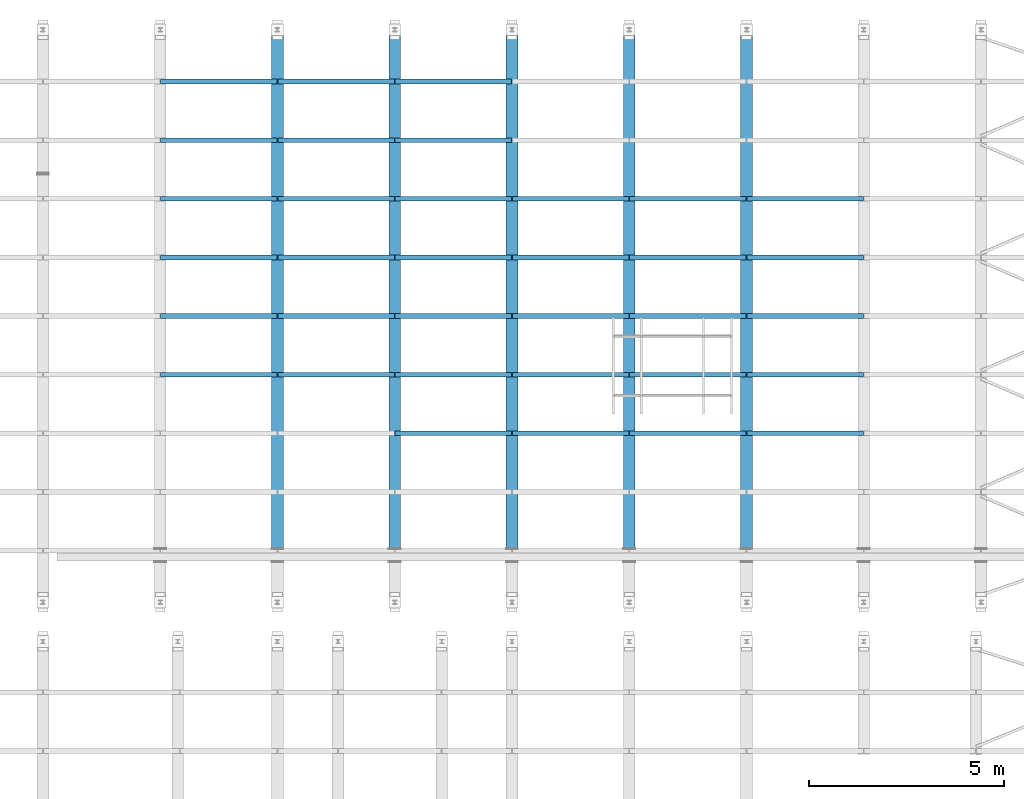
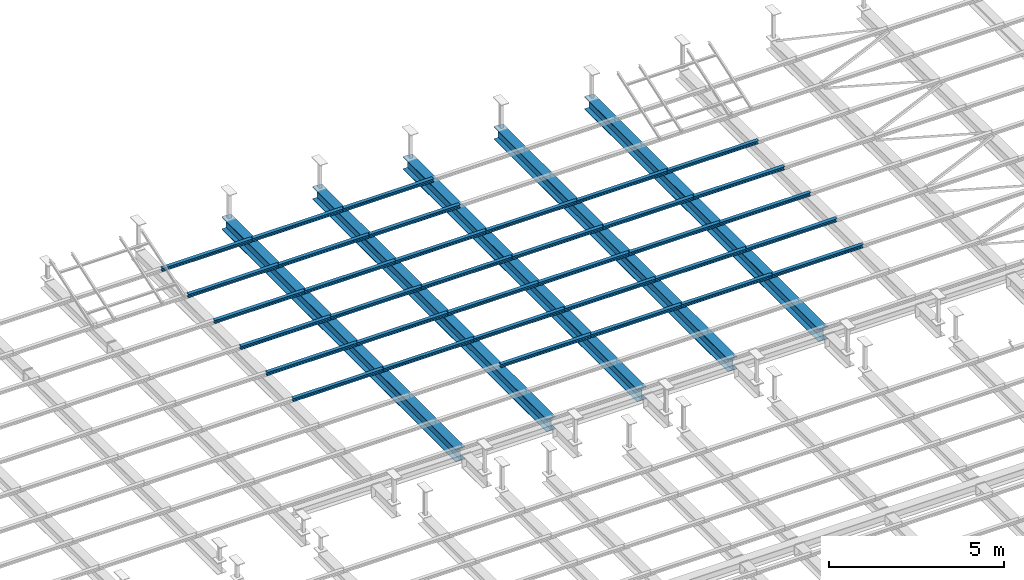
# One storey, part 79 of 139: 39 beams.
"""IFC2X3 building model written with IfcOpenShell, lengths in metres."""

import ifcopenshell
import ifcopenshell.guid

model = None  # the IFC model being written
_history = None  # IfcOwnerHistory: only IFC2X3 demands one
_inside = {}  # id of a spatial element -> (the spatial element, [elements in it])
_under = {}  # id of a project, library or spatial element -> (it, [spatial elements below it])
_declared = {}  # id of a project -> (the project, [libraries it declares])
_typed = {}  # id of a type object -> (the type object, [elements of that type])
_made_of = {}  # id of a material, layer set ... -> (it, [elements and type objects made of it])


def new_model(schema):
    """Start an empty IFC model of exactly this schema.

    Asked for "IFC4X3", IfcOpenShell would pick the latest addendum, in which some entities
    have other attributes; the version numbers below select the first issue.
    IFC2X3 requires an IfcOwnerHistory on every rooted entity: one is made here for all.
    """
    global model, _history
    if schema == "IFC4X3":
        model = ifcopenshell.file(schema_version=(4, 3, 0, 0))
    else:
        model = ifcopenshell.file(schema=schema)
    _inside.clear()
    _under.clear()
    _declared.clear()
    _typed.clear()
    _made_of.clear()
    _history = None
    if model.schema == "IFC2X3":
        org = make("IfcOrganization", Name="unknown")
        user = make(
            "IfcPersonAndOrganization",
            ThePerson=make("IfcPerson", FamilyName="unknown"),
            TheOrganization=org,
        )
        app = make(
            "IfcApplication",
            ApplicationDeveloper=org,
            Version="unknown",
            ApplicationFullName="unknown",
            ApplicationIdentifier="unknown",
        )
        _history = make(
            "IfcOwnerHistory",
            OwningUser=user,
            OwningApplication=app,
            ChangeAction="ADDED",
            CreationDate=0,
        )
    return model


def make(cls, **values):
    """One entity of the class cls with the attributes given. An attribute that is None is left unset."""
    return model.create_entity(
        cls, **{name: value for name, value in values.items() if value is not None}
    )


def entity(cls, *values):
    """Any entity or typed value of the class cls, its attributes in the order of the schema. None: left unset."""
    e = model.create_entity(cls)
    for i, value in enumerate(values):
        if value is not None:
            e[i] = value
    return e


def rooted(cls, **values):
    """An entity with a GlobalId (a new one), such as an element, a storey or a relation."""
    return make(cls, GlobalId=ifcopenshell.guid.new(), OwnerHistory=_history, **values)


def si_unit(unit_type, name, prefix=None):
    """IfcSIUnit, for example si_unit("LENGTHUNIT", "METRE", prefix="MILLI")."""
    return make("IfcSIUnit", UnitType=unit_type, Prefix=prefix, Name=name)


def converted_unit(unit_type, name, factor, base, dimensions=None, offset=None):
    """IfcConversionBasedUnit, such as the inch: factor (a typed value) times the base unit."""
    return make(
        "IfcConversionBasedUnit"
        if offset is None
        else "IfcConversionBasedUnitWithOffset",
        ConversionOffset=offset,
        Dimensions=None
        if dimensions is None
        else entity("IfcDimensionalExponents", *dimensions),
        UnitType=unit_type,
        Name=name,
        ConversionFactor=make(
            "IfcMeasureWithUnit", ValueComponent=factor, UnitComponent=base
        ),
    )


def derived_unit(unit_type, elements):
    """IfcDerivedUnit: a product of units, each with its exponent."""
    return make(
        "IfcDerivedUnit",
        Elements=[
            make("IfcDerivedUnitElement", Unit=unit, Exponent=power)
            for unit, power in elements
        ],
        UnitType=unit_type,
    )


def assignment(units):
    """IfcUnitAssignment: the units of a project."""
    return None if units is None else make("IfcUnitAssignment", Units=units)


def point(xyz):
    """IfcCartesianPoint."""
    return None if xyz is None else make("IfcCartesianPoint", Coordinates=xyz)


def direction(xyz):
    """IfcDirection."""
    return None if xyz is None else make("IfcDirection", DirectionRatios=xyz)


def frame(location, z_axis=None, x_axis=None):
    """IfcAxis2Placement3D, a coordinate frame: its origin and axes. An axis left out is left unset."""
    return make(
        "IfcAxis2Placement3D",
        Location=point(location),
        Axis=direction(z_axis),
        RefDirection=direction(x_axis),
    )


def origin():
    """The frame at (0, 0, 0) with its axes left unset."""
    return frame((0.0, 0.0, 0.0))


def place(relative_to, where):
    """IfcLocalPlacement: puts the frame where relative to a parent placement (None: the world)."""
    return make(
        "IfcLocalPlacement", PlacementRelTo=relative_to, RelativePlacement=where
    )


def context(
    kind, dimensions, precision=None, world=None, true_north=None, identifier=None
):
    """IfcGeometricRepresentationContext, for example the 3D "Model" context."""
    return make(
        "IfcGeometricRepresentationContext",
        ContextIdentifier=identifier,
        ContextType=kind,
        CoordinateSpaceDimension=dimensions,
        Precision=precision,
        WorldCoordinateSystem=world,
        TrueNorth=true_north,
    )


def subcontext(parent, identifier, kind, view, scale=None):
    """IfcGeometricRepresentationSubContext, for example "Body" below "Model"."""
    return make(
        "IfcGeometricRepresentationSubContext",
        ContextIdentifier=identifier,
        ContextType=kind,
        ParentContext=parent,
        TargetScale=scale,
        TargetView=view,
    )


def project(units=None, contexts=None):
    """IfcProject with its units and contexts."""
    return rooted(
        "IfcProject",
        Name="project",
        RepresentationContexts=contexts,
        UnitsInContext=assignment(units),
    )


def spatial(cls, under=None, at=None, **own):
    """A site, building, storey or space (cls), placed at a placement, below another one or the project."""
    s = rooted(cls, ObjectPlacement=at, **own)
    if under is not None:
        _under.setdefault(under.id(), (under, []))[1].append(s)
    return s


def polyline(points):
    """IfcPolyline through the points."""
    return make("IfcPolyline", Points=[point(p) for p in points])


def outline(outer, holes=None, kind="AREA"):
    """IfcArbitraryClosedProfileDef: a profile drawn as a closed curve; with holes, ...WithVoids."""
    if holes is None:
        return make("IfcArbitraryClosedProfileDef", ProfileType=kind, OuterCurve=outer)
    return make(
        "IfcArbitraryProfileDefWithVoids",
        ProfileType=kind,
        OuterCurve=outer,
        InnerCurves=holes,
    )


def extrude(swept, where, along, depth):
    """IfcExtrudedAreaSolid: the profile swept, set in the frame where, extruded along a direction by depth."""
    return make(
        "IfcExtrudedAreaSolid",
        SweptArea=swept,
        Position=where,
        ExtrudedDirection=direction(along),
        Depth=depth,
    )


def shape(context_of_items, identifier, shape_type, items):
    """IfcShapeRepresentation: the items that make up one representation, for example the "Body"."""
    return make(
        "IfcShapeRepresentation",
        ContextOfItems=context_of_items,
        RepresentationIdentifier=identifier,
        RepresentationType=shape_type,
        Items=items,
    )


def material(Name=None, Category=None):
    """IfcMaterial."""
    return make("IfcMaterial", Name=Name, Category=Category)


def made_of(thing, what):
    """Note that an element or type object is made of a material, layer set ...; save() writes the relation."""
    if what is not None:
        _made_of.setdefault(what.id(), (what, []))[1].append(thing)
    return thing


def element(
    cls,
    number,
    at=None,
    inside=None,
    cuts=None,
    type_object=None,
    material=None,
    context=None,
    identifier="Body",
    shape_type=None,
    held_by="IfcProductDefinitionShape",
    body=None,
    shapes=None,
    **own,
):
    """One element of the class cls, such as IfcWall. Its Tag is "e" and its number.

    at: its placement. inside: the storey or other place that contains it. cuts: it is an
    opening in that element (IfcRelVoidsElement). A single representation is given by context,
    identifier, shape_type and body (its items); several are given by shapes. held_by: the class
    of the entity that holds the representations. save() writes the other relations.
    """
    e = rooted(cls, Tag="e%d" % number, ObjectPlacement=at, **own)
    if body is not None:
        shapes = [shape(context, identifier, shape_type, body)]
    if shapes is not None:
        e.Representation = make(held_by, Representations=shapes)
    if inside is not None:
        _inside.setdefault(inside.id(), (inside, []))[1].append(e)
    if cuts is not None:
        rooted(
            "IfcRelVoidsElement", RelatingBuildingElement=cuts, RelatedOpeningElement=e
        )
    if type_object is not None:
        _typed.setdefault(type_object.id(), (type_object, []))[1].append(e)
    return made_of(e, material)


def aggregate(whole, parts):
    """IfcRelAggregates: a whole, such as a stair, and the parts it consists of."""
    return rooted("IfcRelAggregates", RelatingObject=whole, RelatedObjects=parts)


def save(model, path):
    """Write the relations noted so far, then the file.

    IfcRelAggregates (storeys below a building ...), IfcRelContainedInSpatialStructure (elements
    in a storey), IfcRelDefinesByType, IfcRelAssociatesMaterial and IfcRelDeclares: one each for
    every whole, place, type object, material and project.
    """
    for whole, parts in _under.values():
        aggregate(whole, parts)
    for where, things in _inside.values():
        rooted(
            "IfcRelContainedInSpatialStructure",
            RelatedElements=things,
            RelatingStructure=where,
        )
    for kind, things in _typed.values():
        rooted("IfcRelDefinesByType", RelatedObjects=things, RelatingType=kind)
    for what, things in _made_of.values():
        rooted("IfcRelAssociatesMaterial", RelatedObjects=things, RelatingMaterial=what)
    for by, libraries in _declared.values():
        rooted("IfcRelDeclares", RelatingContext=by, RelatedDefinitions=libraries)
    model.write(path)


model = new_model("IFC2X3")

# Units and contexts
model_context = context("Model", 3, precision=1e-05, world=origin())
body_context = subcontext(model_context, "Body", "Model", "MODEL_VIEW")
ifc_project = project(units=[si_unit("LENGTHUNIT", "METRE"), si_unit("AREAUNIT", "SQUARE_METRE"), si_unit("VOLUMEUNIT", "CUBIC_METRE"), si_unit("MASSUNIT", "GRAM", prefix="KILO"), converted_unit("PLANEANGLEUNIT", "DEGREE", entity("IfcPlaneAngleMeasure", 0.0174532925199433), si_unit("PLANEANGLEUNIT", "RADIAN"), dimensions=[0, 0, 0, 0, 0, 0, 0]), derived_unit("THERMALTRANSMITTANCEUNIT", [(si_unit("POWERUNIT", "WATT"), 1), (si_unit("THERMODYNAMICTEMPERATUREUNIT", "KELVIN"), -1), (si_unit("LENGTHUNIT", "METRE"), -2)]), derived_unit("VOLUMETRICFLOWRATEUNIT", [(si_unit("LENGTHUNIT", "METRE"), 3), (converted_unit("TIMEUNIT", "hour", entity("IfcTimeMeasure", 3600.0), si_unit("TIMEUNIT", "SECOND"), dimensions=[0, 0, 1, 0, 0, 0, 0]), -1), (si_unit("LENGTHUNIT", "METRE"), -1)])], contexts=[model_context])

# Site, building, storey
site_placement = place(None, origin())
site = spatial("IfcSite", under=ifc_project, at=site_placement, Name="TWP_Speiseverteilzentrum SBW VZ II", CompositionType="ELEMENT")
building_placement = place(site_placement, origin())
building = spatial("IfcBuilding", under=site, at=building_placement, Name="Speiseverteilzentrum SBW VZ II", CompositionType="ELEMENT")
storey_placement = place(building_placement, frame((0.0, 0.0, 7.1307)))
storey = spatial("IfcBuildingStorey", under=building, at=storey_placement, Name="Wartung_FFB", CompositionType="ELEMENT", Elevation=7.1307)

# Beams
ifc_material_1 = material(Name="S235")
beam_1_placement = place(storey_placement, frame((28.0500000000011, 72.2845015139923, -0.41), z_axis=(0.0, 0.0, 1.0), x_axis=(1.0, -2.44929359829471e-16, 0.0)))
element("IfcBeam", 1, at=beam_1_placement, inside=storey, material=ifc_material_1, Name="Stahlträger", context=body_context, shape_type="SweptSolid", body=[
    extrude(outline(polyline([(-0.15, 0.22), (-0.15, 0.199), (-0.00574999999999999, 0.199), (-0.00575000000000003, -0.199), (-0.15, -0.199), (-0.15, -0.22), (0.15, -0.22), (0.15, -0.199), (0.00574999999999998, -0.199), (0.00575000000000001, 0.199), (0.15, 0.199), (0.15, 0.22), (-0.15, 0.22)])), frame((0.0, 0.0, 0.0), z_axis=(0.0, 1.0, 0.0), x_axis=(-1.0, 0.0, 0.0)), (0.0, 0.0, 1.0), 13.4154984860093),
])
ifc_material_2 = material(Name="S235")
beam_2_placement = place(storey_placement, frame((31.0500000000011, 72.2845015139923, -0.41), z_axis=(0.0, 0.0, 1.0), x_axis=(1.0, -2.44929359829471e-16, 0.0)))
element("IfcBeam", 2, at=beam_2_placement, inside=storey, material=ifc_material_2, Name="Stahlträger", context=body_context, shape_type="SweptSolid", body=[
    extrude(outline(polyline([(-0.15, 0.22), (-0.15, 0.199), (-0.00574999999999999, 0.199), (-0.00575000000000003, -0.199), (-0.15, -0.199), (-0.15, -0.22), (0.15, -0.22), (0.15, -0.199), (0.00574999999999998, -0.199), (0.00575000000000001, 0.199), (0.15, 0.199), (0.15, 0.22), (-0.15, 0.22)])), frame((0.0, 0.0, 0.0), z_axis=(0.0, 1.0, 0.0), x_axis=(-1.0, 0.0, 0.0)), (0.0, 0.0, 1.0), 13.4154984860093),
])
ifc_material_3 = material(Name="S235")
beam_3_placement = place(storey_placement, frame((34.0500000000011, 72.2845015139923, -0.41), z_axis=(0.0, 0.0, 1.0), x_axis=(1.0, -2.44929359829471e-16, 0.0)))
element("IfcBeam", 3, at=beam_3_placement, inside=storey, material=ifc_material_3, Name="Stahlträger", context=body_context, shape_type="SweptSolid", body=[
    extrude(outline(polyline([(-0.15, 0.22), (-0.15, 0.199), (-0.00574999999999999, 0.199), (-0.00575000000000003, -0.199), (-0.15, -0.199), (-0.15, -0.22), (0.15, -0.22), (0.15, -0.199), (0.00574999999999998, -0.199), (0.00575000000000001, 0.199), (0.15, 0.199), (0.15, 0.22), (-0.15, 0.22)])), frame((0.0, 0.0, 0.0), z_axis=(0.0, 1.0, 0.0), x_axis=(-1.0, 0.0, 0.0)), (0.0, 0.0, 1.0), 13.4154984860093),
])
ifc_material_4 = material(Name="S235")
beam_4_placement = place(storey_placement, frame((37.0500000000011, 72.2845015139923, -0.41), z_axis=(0.0, 0.0, 1.0), x_axis=(1.0, -2.44929359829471e-16, 0.0)))
element("IfcBeam", 4, at=beam_4_placement, inside=storey, material=ifc_material_4, Name="Stahlträger", context=body_context, shape_type="SweptSolid", body=[
    extrude(outline(polyline([(-0.15, 0.22), (-0.15, 0.199), (-0.00574999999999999, 0.199), (-0.00575000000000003, -0.199), (-0.15, -0.199), (-0.15, -0.22), (0.15, -0.22), (0.15, -0.199), (0.00574999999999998, -0.199), (0.00575000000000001, 0.199), (0.15, 0.199), (0.15, 0.22), (-0.15, 0.22)])), frame((0.0, 0.0, 0.0), z_axis=(0.0, 1.0, 0.0), x_axis=(-1.0, 0.0, 0.0)), (0.0, 0.0, 1.0), 13.4154984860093),
])
ifc_material_5 = material(Name="S235")
beam_5_placement = place(storey_placement, frame((40.0500000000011, 72.2845015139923, -0.41), z_axis=(0.0, 0.0, 1.0), x_axis=(1.0, -2.44929359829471e-16, 0.0)))
element("IfcBeam", 5, at=beam_5_placement, inside=storey, material=ifc_material_5, Name="Stahlträger", context=body_context, shape_type="SweptSolid", body=[
    extrude(outline(polyline([(-0.15, 0.22), (-0.15, 0.199), (-0.00574999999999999, 0.199), (-0.00575000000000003, -0.199), (-0.15, -0.199), (-0.15, -0.22), (0.15, -0.22), (0.15, -0.199), (0.00574999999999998, -0.199), (0.00575000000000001, 0.199), (0.15, 0.199), (0.15, 0.22), (-0.15, 0.22)])), frame((0.0, 0.0, 0.0), z_axis=(0.0, 1.0, 0.0), x_axis=(-1.0, 0.0, 0.0)), (0.0, 0.0, 1.0), 13.4154984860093),
])
ifc_material_6 = material(Name="S235")
beam_6_placement = place(storey_placement, frame((25.0600000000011, 84.2261263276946, -0.133), z_axis=(0.0, 0.0, 1.0), x_axis=(0.0, -1.0, 0.0)))
element("IfcBeam", 6, at=beam_6_placement, inside=storey, material=ifc_material_6, Name="Nebenträger", context=body_context, shape_type="SweptSolid", body=[
    extrude(outline(polyline([(-0.06, 0.0570000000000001), (-0.06, 0.0490000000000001), (-0.00249999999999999, 0.0490000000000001), (-0.0025, -0.0489999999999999), (-0.06, -0.0489999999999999), (-0.06, -0.0569999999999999), (0.06, -0.0569999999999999), (0.06, -0.0489999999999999), (0.0025, -0.0489999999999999), (0.00250000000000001, 0.0490000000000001), (0.06, 0.0490000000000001), (0.06, 0.0570000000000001), (-0.06, 0.0570000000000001)])), frame((0.0, 0.0, 0.0), z_axis=(0.0, 1.0, 0.0), x_axis=(-1.0, 0.0, 0.0)), (0.0, 0.0, 1.0), 2.98),
])
ifc_material_7 = material(Name="S235")
beam_7_placement = place(storey_placement, frame((28.0600000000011, 84.2261263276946, -0.133), z_axis=(0.0, 0.0, 1.0), x_axis=(0.0, -1.0, 0.0)))
element("IfcBeam", 7, at=beam_7_placement, inside=storey, material=ifc_material_7, Name="Nebenträger", context=body_context, shape_type="SweptSolid", body=[
    extrude(outline(polyline([(-0.06, 0.0570000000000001), (-0.06, 0.0490000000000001), (-0.00249999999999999, 0.0490000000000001), (-0.0025, -0.0489999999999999), (-0.06, -0.0489999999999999), (-0.06, -0.0569999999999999), (0.06, -0.0569999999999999), (0.06, -0.0489999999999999), (0.0025, -0.0489999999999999), (0.00250000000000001, 0.0490000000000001), (0.06, 0.0490000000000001), (0.06, 0.0570000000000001), (-0.06, 0.0570000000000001)])), frame((0.0, 0.0, 0.0), z_axis=(0.0, 1.0, 0.0), x_axis=(-1.0, 0.0, 0.0)), (0.0, 0.0, 1.0), 2.98),
])
ifc_material_8 = material(Name="S235")
beam_8_placement = place(storey_placement, frame((31.0600000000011, 84.2261263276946, -0.133), z_axis=(0.0, 0.0, 1.0), x_axis=(0.0, -1.0, 0.0)))
element("IfcBeam", 8, at=beam_8_placement, inside=storey, material=ifc_material_8, Name="Nebenträger", context=body_context, shape_type="SweptSolid", body=[
    extrude(outline(polyline([(-0.06, 0.0570000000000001), (-0.06, 0.0490000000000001), (-0.00249999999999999, 0.0490000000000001), (-0.0025, -0.0489999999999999), (-0.06, -0.0489999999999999), (-0.06, -0.0569999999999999), (0.06, -0.0569999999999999), (0.06, -0.0489999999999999), (0.0025, -0.0489999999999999), (0.00250000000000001, 0.0490000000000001), (0.06, 0.0490000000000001), (0.06, 0.0570000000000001), (-0.06, 0.0570000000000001)])), frame((0.0, 0.0, 0.0), z_axis=(0.0, 1.0, 0.0), x_axis=(-1.0, 0.0, 0.0)), (0.0, 0.0, 1.0), 2.98),
])
ifc_material_9 = material(Name="S235")
beam_9_placement = place(storey_placement, frame((25.0600000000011, 82.7261263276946, -0.133), z_axis=(0.0, 0.0, 1.0), x_axis=(0.0, -1.0, 0.0)))
element("IfcBeam", 9, at=beam_9_placement, inside=storey, material=ifc_material_9, Name="Nebenträger", context=body_context, shape_type="SweptSolid", body=[
    extrude(outline(polyline([(-0.06, 0.0570000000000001), (-0.06, 0.0490000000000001), (-0.00249999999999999, 0.0490000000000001), (-0.0025, -0.0489999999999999), (-0.06, -0.0489999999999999), (-0.06, -0.0569999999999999), (0.06, -0.0569999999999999), (0.06, -0.0489999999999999), (0.0025, -0.0489999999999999), (0.00250000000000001, 0.0490000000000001), (0.06, 0.0490000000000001), (0.06, 0.0570000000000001), (-0.06, 0.0570000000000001)])), frame((0.0, 0.0, 0.0), z_axis=(0.0, 1.0, 0.0), x_axis=(-1.0, 0.0, 0.0)), (0.0, 0.0, 1.0), 2.98),
])
ifc_material_10 = material(Name="S235")
beam_10_placement = place(storey_placement, frame((28.0600000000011, 82.7261263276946, -0.133), z_axis=(0.0, 0.0, 1.0), x_axis=(0.0, -1.0, 0.0)))
element("IfcBeam", 10, at=beam_10_placement, inside=storey, material=ifc_material_10, Name="Nebenträger", context=body_context, shape_type="SweptSolid", body=[
    extrude(outline(polyline([(-0.06, 0.0570000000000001), (-0.06, 0.0490000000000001), (-0.00249999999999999, 0.0490000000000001), (-0.0025, -0.0489999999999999), (-0.06, -0.0489999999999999), (-0.06, -0.0569999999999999), (0.06, -0.0569999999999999), (0.06, -0.0489999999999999), (0.0025, -0.0489999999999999), (0.00250000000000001, 0.0490000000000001), (0.06, 0.0490000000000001), (0.06, 0.0570000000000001), (-0.06, 0.0570000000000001)])), frame((0.0, 0.0, 0.0), z_axis=(0.0, 1.0, 0.0), x_axis=(-1.0, 0.0, 0.0)), (0.0, 0.0, 1.0), 2.98),
])
ifc_material_11 = material(Name="S235")
beam_11_placement = place(storey_placement, frame((31.0600000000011, 82.7261263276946, -0.133), z_axis=(0.0, 0.0, 1.0), x_axis=(0.0, -1.0, 0.0)))
element("IfcBeam", 11, at=beam_11_placement, inside=storey, material=ifc_material_11, Name="Nebenträger", context=body_context, shape_type="SweptSolid", body=[
    extrude(outline(polyline([(-0.06, 0.0570000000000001), (-0.06, 0.0490000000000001), (-0.00249999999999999, 0.0490000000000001), (-0.0025, -0.0489999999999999), (-0.06, -0.0489999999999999), (-0.06, -0.0569999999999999), (0.06, -0.0569999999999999), (0.06, -0.0489999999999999), (0.0025, -0.0489999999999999), (0.00250000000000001, 0.0490000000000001), (0.06, 0.0490000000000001), (0.06, 0.0570000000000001), (-0.06, 0.0570000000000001)])), frame((0.0, 0.0, 0.0), z_axis=(0.0, 1.0, 0.0), x_axis=(-1.0, 0.0, 0.0)), (0.0, 0.0, 1.0), 2.98),
])
ifc_material_12 = material(Name="S235")
beam_12_placement = place(storey_placement, frame((25.0600000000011, 81.2261263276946, -0.133), z_axis=(0.0, 0.0, 1.0), x_axis=(0.0, -1.0, 0.0)))
element("IfcBeam", 12, at=beam_12_placement, inside=storey, material=ifc_material_12, Name="Nebenträger", context=body_context, shape_type="SweptSolid", body=[
    extrude(outline(polyline([(-0.06, 0.0570000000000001), (-0.06, 0.0490000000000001), (-0.00249999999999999, 0.0490000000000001), (-0.0025, -0.0489999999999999), (-0.06, -0.0489999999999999), (-0.06, -0.0569999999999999), (0.06, -0.0569999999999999), (0.06, -0.0489999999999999), (0.0025, -0.0489999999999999), (0.00250000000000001, 0.0490000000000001), (0.06, 0.0490000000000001), (0.06, 0.0570000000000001), (-0.06, 0.0570000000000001)])), frame((0.0, 0.0, 0.0), z_axis=(0.0, 1.0, 0.0), x_axis=(-1.0, 0.0, 0.0)), (0.0, 0.0, 1.0), 2.98),
])
ifc_material_13 = material(Name="S235")
beam_13_placement = place(storey_placement, frame((28.0600000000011, 81.2261263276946, -0.133), z_axis=(0.0, 0.0, 1.0), x_axis=(0.0, -1.0, 0.0)))
element("IfcBeam", 13, at=beam_13_placement, inside=storey, material=ifc_material_13, Name="Nebenträger", context=body_context, shape_type="SweptSolid", body=[
    extrude(outline(polyline([(-0.06, 0.0570000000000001), (-0.06, 0.0490000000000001), (-0.00249999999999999, 0.0490000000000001), (-0.0025, -0.0489999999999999), (-0.06, -0.0489999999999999), (-0.06, -0.0569999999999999), (0.06, -0.0569999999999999), (0.06, -0.0489999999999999), (0.0025, -0.0489999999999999), (0.00250000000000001, 0.0490000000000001), (0.06, 0.0490000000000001), (0.06, 0.0570000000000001), (-0.06, 0.0570000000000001)])), frame((0.0, 0.0, 0.0), z_axis=(0.0, 1.0, 0.0), x_axis=(-1.0, 0.0, 0.0)), (0.0, 0.0, 1.0), 2.98),
])
ifc_material_14 = material(Name="S235")
beam_14_placement = place(storey_placement, frame((31.0600000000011, 81.2261263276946, -0.133), z_axis=(0.0, 0.0, 1.0), x_axis=(0.0, -1.0, 0.0)))
element("IfcBeam", 14, at=beam_14_placement, inside=storey, material=ifc_material_14, Name="Nebenträger", context=body_context, shape_type="SweptSolid", body=[
    extrude(outline(polyline([(-0.06, 0.0570000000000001), (-0.06, 0.0490000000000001), (-0.00249999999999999, 0.0490000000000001), (-0.0025, -0.0489999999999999), (-0.06, -0.0489999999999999), (-0.06, -0.0569999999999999), (0.06, -0.0569999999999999), (0.06, -0.0489999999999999), (0.0025, -0.0489999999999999), (0.00250000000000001, 0.0490000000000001), (0.06, 0.0490000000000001), (0.06, 0.0570000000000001), (-0.06, 0.0570000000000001)])), frame((0.0, 0.0, 0.0), z_axis=(0.0, 1.0, 0.0), x_axis=(-1.0, 0.0, 0.0)), (0.0, 0.0, 1.0), 2.98),
])
ifc_material_15 = material(Name="S235")
beam_15_placement = place(storey_placement, frame((34.0600000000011, 81.2261263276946, -0.133), z_axis=(0.0, 0.0, 1.0), x_axis=(0.0, -1.0, 0.0)))
element("IfcBeam", 15, at=beam_15_placement, inside=storey, material=ifc_material_15, Name="Nebenträger", context=body_context, shape_type="SweptSolid", body=[
    extrude(outline(polyline([(-0.06, 0.0570000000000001), (-0.06, 0.0490000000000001), (-0.00249999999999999, 0.0490000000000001), (-0.0025, -0.0489999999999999), (-0.06, -0.0489999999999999), (-0.06, -0.0569999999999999), (0.06, -0.0569999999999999), (0.06, -0.0489999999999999), (0.0025, -0.0489999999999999), (0.00250000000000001, 0.0490000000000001), (0.06, 0.0490000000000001), (0.06, 0.0570000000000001), (-0.06, 0.0570000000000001)])), frame((0.0, 0.0, 0.0), z_axis=(0.0, 1.0, 0.0), x_axis=(-1.0, 0.0, 0.0)), (0.0, 0.0, 1.0), 2.98),
])
ifc_material_16 = material(Name="S235")
beam_16_placement = place(storey_placement, frame((37.0600000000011, 81.2261263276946, -0.133), z_axis=(0.0, 0.0, 1.0), x_axis=(0.0, -1.0, 0.0)))
element("IfcBeam", 16, at=beam_16_placement, inside=storey, material=ifc_material_16, Name="Nebenträger", context=body_context, shape_type="SweptSolid", body=[
    extrude(outline(polyline([(-0.06, 0.0570000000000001), (-0.06, 0.0490000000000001), (-0.00249999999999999, 0.0490000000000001), (-0.0025, -0.0489999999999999), (-0.06, -0.0489999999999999), (-0.06, -0.0569999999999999), (0.06, -0.0569999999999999), (0.06, -0.0489999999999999), (0.0025, -0.0489999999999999), (0.00250000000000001, 0.0490000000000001), (0.06, 0.0490000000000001), (0.06, 0.0570000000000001), (-0.06, 0.0570000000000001)])), frame((0.0, 0.0, 0.0), z_axis=(0.0, 1.0, 0.0), x_axis=(-1.0, 0.0, 0.0)), (0.0, 0.0, 1.0), 2.98),
])
ifc_material_17 = material(Name="S235")
beam_17_placement = place(storey_placement, frame((40.0600000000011, 81.2261263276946, -0.133), z_axis=(0.0, 0.0, 1.0), x_axis=(0.0, -1.0, 0.0)))
element("IfcBeam", 17, at=beam_17_placement, inside=storey, material=ifc_material_17, Name="Nebenträger", context=body_context, shape_type="SweptSolid", body=[
    extrude(outline(polyline([(-0.06, 0.0570000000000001), (-0.06, 0.0490000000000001), (-0.00249999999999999, 0.0490000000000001), (-0.0025, -0.0489999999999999), (-0.06, -0.0489999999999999), (-0.06, -0.0569999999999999), (0.06, -0.0569999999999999), (0.06, -0.0489999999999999), (0.0025, -0.0489999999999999), (0.00250000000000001, 0.0490000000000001), (0.06, 0.0490000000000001), (0.06, 0.0570000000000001), (-0.06, 0.0570000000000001)])), frame((0.0, 0.0, 0.0), z_axis=(0.0, 1.0, 0.0), x_axis=(-1.0, 0.0, 0.0)), (0.0, 0.0, 1.0), 2.98),
])
ifc_material_18 = material(Name="S235")
beam_18_placement = place(storey_placement, frame((25.0600000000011, 79.7261263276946, -0.133), z_axis=(0.0, 0.0, 1.0), x_axis=(0.0, -1.0, 0.0)))
element("IfcBeam", 18, at=beam_18_placement, inside=storey, material=ifc_material_18, Name="Nebenträger", context=body_context, shape_type="SweptSolid", body=[
    extrude(outline(polyline([(-0.06, 0.0570000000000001), (-0.06, 0.0490000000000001), (-0.00249999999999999, 0.0490000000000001), (-0.0025, -0.0489999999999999), (-0.06, -0.0489999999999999), (-0.06, -0.0569999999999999), (0.06, -0.0569999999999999), (0.06, -0.0489999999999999), (0.0025, -0.0489999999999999), (0.00250000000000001, 0.0490000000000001), (0.06, 0.0490000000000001), (0.06, 0.0570000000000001), (-0.06, 0.0570000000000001)])), frame((0.0, 0.0, 0.0), z_axis=(0.0, 1.0, 0.0), x_axis=(-1.0, 0.0, 0.0)), (0.0, 0.0, 1.0), 2.98),
])
ifc_material_19 = material(Name="S235")
beam_19_placement = place(storey_placement, frame((28.0600000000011, 79.7261263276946, -0.133), z_axis=(0.0, 0.0, 1.0), x_axis=(0.0, -1.0, 0.0)))
element("IfcBeam", 19, at=beam_19_placement, inside=storey, material=ifc_material_19, Name="Nebenträger", context=body_context, shape_type="SweptSolid", body=[
    extrude(outline(polyline([(-0.06, 0.0570000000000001), (-0.06, 0.0490000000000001), (-0.00249999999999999, 0.0490000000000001), (-0.0025, -0.0489999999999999), (-0.06, -0.0489999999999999), (-0.06, -0.0569999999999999), (0.06, -0.0569999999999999), (0.06, -0.0489999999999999), (0.0025, -0.0489999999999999), (0.00250000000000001, 0.0490000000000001), (0.06, 0.0490000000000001), (0.06, 0.0570000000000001), (-0.06, 0.0570000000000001)])), frame((0.0, 0.0, 0.0), z_axis=(0.0, 1.0, 0.0), x_axis=(-1.0, 0.0, 0.0)), (0.0, 0.0, 1.0), 2.98),
])
ifc_material_20 = material(Name="S235")
beam_20_placement = place(storey_placement, frame((31.0600000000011, 79.7261263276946, -0.133), z_axis=(0.0, 0.0, 1.0), x_axis=(0.0, -1.0, 0.0)))
element("IfcBeam", 20, at=beam_20_placement, inside=storey, material=ifc_material_20, Name="Nebenträger", context=body_context, shape_type="SweptSolid", body=[
    extrude(outline(polyline([(-0.06, 0.0570000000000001), (-0.06, 0.0490000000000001), (-0.00249999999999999, 0.0490000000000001), (-0.0025, -0.0489999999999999), (-0.06, -0.0489999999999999), (-0.06, -0.0569999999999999), (0.06, -0.0569999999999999), (0.06, -0.0489999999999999), (0.0025, -0.0489999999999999), (0.00250000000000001, 0.0490000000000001), (0.06, 0.0490000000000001), (0.06, 0.0570000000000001), (-0.06, 0.0570000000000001)])), frame((0.0, 0.0, 0.0), z_axis=(0.0, 1.0, 0.0), x_axis=(-1.0, 0.0, 0.0)), (0.0, 0.0, 1.0), 2.98),
])
ifc_material_21 = material(Name="S235")
beam_21_placement = place(storey_placement, frame((34.0600000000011, 79.7261263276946, -0.133), z_axis=(0.0, 0.0, 1.0), x_axis=(0.0, -1.0, 0.0)))
element("IfcBeam", 21, at=beam_21_placement, inside=storey, material=ifc_material_21, Name="Nebenträger", context=body_context, shape_type="SweptSolid", body=[
    extrude(outline(polyline([(-0.06, 0.0570000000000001), (-0.06, 0.0490000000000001), (-0.00249999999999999, 0.0490000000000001), (-0.0025, -0.0489999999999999), (-0.06, -0.0489999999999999), (-0.06, -0.0569999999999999), (0.06, -0.0569999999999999), (0.06, -0.0489999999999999), (0.0025, -0.0489999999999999), (0.00250000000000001, 0.0490000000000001), (0.06, 0.0490000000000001), (0.06, 0.0570000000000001), (-0.06, 0.0570000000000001)])), frame((0.0, 0.0, 0.0), z_axis=(0.0, 1.0, 0.0), x_axis=(-1.0, 0.0, 0.0)), (0.0, 0.0, 1.0), 2.98),
])
ifc_material_22 = material(Name="S235")
beam_22_placement = place(storey_placement, frame((37.0600000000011, 79.7261263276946, -0.133), z_axis=(0.0, 0.0, 1.0), x_axis=(0.0, -1.0, 0.0)))
element("IfcBeam", 22, at=beam_22_placement, inside=storey, material=ifc_material_22, Name="Nebenträger", context=body_context, shape_type="SweptSolid", body=[
    extrude(outline(polyline([(-0.06, 0.0570000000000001), (-0.06, 0.0490000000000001), (-0.00249999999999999, 0.0490000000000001), (-0.0025, -0.0489999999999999), (-0.06, -0.0489999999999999), (-0.06, -0.0569999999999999), (0.06, -0.0569999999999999), (0.06, -0.0489999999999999), (0.0025, -0.0489999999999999), (0.00250000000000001, 0.0490000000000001), (0.06, 0.0490000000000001), (0.06, 0.0570000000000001), (-0.06, 0.0570000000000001)])), frame((0.0, 0.0, 0.0), z_axis=(0.0, 1.0, 0.0), x_axis=(-1.0, 0.0, 0.0)), (0.0, 0.0, 1.0), 2.98),
])
ifc_material_23 = material(Name="S235")
beam_23_placement = place(storey_placement, frame((40.0600000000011, 79.7261263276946, -0.133), z_axis=(0.0, 0.0, 1.0), x_axis=(0.0, -1.0, 0.0)))
element("IfcBeam", 23, at=beam_23_placement, inside=storey, material=ifc_material_23, Name="Nebenträger", context=body_context, shape_type="SweptSolid", body=[
    extrude(outline(polyline([(-0.06, 0.0570000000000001), (-0.06, 0.0490000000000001), (-0.00249999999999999, 0.0490000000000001), (-0.0025, -0.0489999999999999), (-0.06, -0.0489999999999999), (-0.06, -0.0569999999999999), (0.06, -0.0569999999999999), (0.06, -0.0489999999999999), (0.0025, -0.0489999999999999), (0.00250000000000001, 0.0490000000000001), (0.06, 0.0490000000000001), (0.06, 0.0570000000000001), (-0.06, 0.0570000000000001)])), frame((0.0, 0.0, 0.0), z_axis=(0.0, 1.0, 0.0), x_axis=(-1.0, 0.0, 0.0)), (0.0, 0.0, 1.0), 2.98),
])
ifc_material_24 = material(Name="S235")
beam_24_placement = place(storey_placement, frame((25.0600000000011, 78.2261263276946, -0.133), z_axis=(0.0, 0.0, 1.0), x_axis=(0.0, -1.0, 0.0)))
element("IfcBeam", 24, at=beam_24_placement, inside=storey, material=ifc_material_24, Name="Nebenträger", context=body_context, shape_type="SweptSolid", body=[
    extrude(outline(polyline([(-0.06, 0.0570000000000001), (-0.06, 0.0490000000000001), (-0.00249999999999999, 0.0490000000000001), (-0.0025, -0.0489999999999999), (-0.06, -0.0489999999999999), (-0.06, -0.0569999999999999), (0.06, -0.0569999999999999), (0.06, -0.0489999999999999), (0.0025, -0.0489999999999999), (0.00250000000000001, 0.0490000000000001), (0.06, 0.0490000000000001), (0.06, 0.0570000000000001), (-0.06, 0.0570000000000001)])), frame((0.0, 0.0, 0.0), z_axis=(0.0, 1.0, 0.0), x_axis=(-1.0, 0.0, 0.0)), (0.0, 0.0, 1.0), 2.98),
])
ifc_material_25 = material(Name="S235")
beam_25_placement = place(storey_placement, frame((28.0600000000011, 78.2261263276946, -0.133), z_axis=(0.0, 0.0, 1.0), x_axis=(0.0, -1.0, 0.0)))
element("IfcBeam", 25, at=beam_25_placement, inside=storey, material=ifc_material_25, Name="Nebenträger", context=body_context, shape_type="SweptSolid", body=[
    extrude(outline(polyline([(-0.06, 0.0570000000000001), (-0.06, 0.0490000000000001), (-0.00249999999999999, 0.0490000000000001), (-0.0025, -0.0489999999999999), (-0.06, -0.0489999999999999), (-0.06, -0.0569999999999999), (0.06, -0.0569999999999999), (0.06, -0.0489999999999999), (0.0025, -0.0489999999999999), (0.00250000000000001, 0.0490000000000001), (0.06, 0.0490000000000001), (0.06, 0.0570000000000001), (-0.06, 0.0570000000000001)])), frame((0.0, 0.0, 0.0), z_axis=(0.0, 1.0, 0.0), x_axis=(-1.0, 0.0, 0.0)), (0.0, 0.0, 1.0), 2.98),
])
ifc_material_26 = material(Name="S235")
beam_26_placement = place(storey_placement, frame((31.0600000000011, 78.2261263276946, -0.133), z_axis=(0.0, 0.0, 1.0), x_axis=(0.0, -1.0, 0.0)))
element("IfcBeam", 26, at=beam_26_placement, inside=storey, material=ifc_material_26, Name="Nebenträger", context=body_context, shape_type="SweptSolid", body=[
    extrude(outline(polyline([(-0.06, 0.0570000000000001), (-0.06, 0.0490000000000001), (-0.00249999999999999, 0.0490000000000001), (-0.0025, -0.0489999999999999), (-0.06, -0.0489999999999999), (-0.06, -0.0569999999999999), (0.06, -0.0569999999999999), (0.06, -0.0489999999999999), (0.0025, -0.0489999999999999), (0.00250000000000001, 0.0490000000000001), (0.06, 0.0490000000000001), (0.06, 0.0570000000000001), (-0.06, 0.0570000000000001)])), frame((0.0, 0.0, 0.0), z_axis=(0.0, 1.0, 0.0), x_axis=(-1.0, 0.0, 0.0)), (0.0, 0.0, 1.0), 2.98),
])
ifc_material_27 = material(Name="S235")
beam_27_placement = place(storey_placement, frame((34.0600000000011, 78.2261263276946, -0.133), z_axis=(0.0, 0.0, 1.0), x_axis=(0.0, -1.0, 0.0)))
element("IfcBeam", 27, at=beam_27_placement, inside=storey, material=ifc_material_27, Name="Nebenträger", context=body_context, shape_type="SweptSolid", body=[
    extrude(outline(polyline([(-0.06, 0.0570000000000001), (-0.06, 0.0490000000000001), (-0.00249999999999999, 0.0490000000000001), (-0.0025, -0.0489999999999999), (-0.06, -0.0489999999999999), (-0.06, -0.0569999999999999), (0.06, -0.0569999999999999), (0.06, -0.0489999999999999), (0.0025, -0.0489999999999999), (0.00250000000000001, 0.0490000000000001), (0.06, 0.0490000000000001), (0.06, 0.0570000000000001), (-0.06, 0.0570000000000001)])), frame((0.0, 0.0, 0.0), z_axis=(0.0, 1.0, 0.0), x_axis=(-1.0, 0.0, 0.0)), (0.0, 0.0, 1.0), 2.98),
])
ifc_material_28 = material(Name="S235")
beam_28_placement = place(storey_placement, frame((37.0600000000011, 78.2261263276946, -0.133), z_axis=(0.0, 0.0, 1.0), x_axis=(0.0, -1.0, 0.0)))
element("IfcBeam", 28, at=beam_28_placement, inside=storey, material=ifc_material_28, Name="Nebenträger", context=body_context, shape_type="SweptSolid", body=[
    extrude(outline(polyline([(-0.06, 0.0570000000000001), (-0.06, 0.0490000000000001), (-0.00249999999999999, 0.0490000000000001), (-0.0025, -0.0489999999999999), (-0.06, -0.0489999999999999), (-0.06, -0.0569999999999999), (0.06, -0.0569999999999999), (0.06, -0.0489999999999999), (0.0025, -0.0489999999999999), (0.00250000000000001, 0.0490000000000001), (0.06, 0.0490000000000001), (0.06, 0.0570000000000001), (-0.06, 0.0570000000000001)])), frame((0.0, 0.0, 0.0), z_axis=(0.0, 1.0, 0.0), x_axis=(-1.0, 0.0, 0.0)), (0.0, 0.0, 1.0), 2.98),
])
ifc_material_29 = material(Name="S235")
beam_29_placement = place(storey_placement, frame((40.0600000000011, 78.2261263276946, -0.133), z_axis=(0.0, 0.0, 1.0), x_axis=(0.0, -1.0, 0.0)))
element("IfcBeam", 29, at=beam_29_placement, inside=storey, material=ifc_material_29, Name="Nebenträger", context=body_context, shape_type="SweptSolid", body=[
    extrude(outline(polyline([(-0.06, 0.0570000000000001), (-0.06, 0.0490000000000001), (-0.00249999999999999, 0.0490000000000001), (-0.0025, -0.0489999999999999), (-0.06, -0.0489999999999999), (-0.06, -0.0569999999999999), (0.06, -0.0569999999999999), (0.06, -0.0489999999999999), (0.0025, -0.0489999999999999), (0.00250000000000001, 0.0490000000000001), (0.06, 0.0490000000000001), (0.06, 0.0570000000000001), (-0.06, 0.0570000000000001)])), frame((0.0, 0.0, 0.0), z_axis=(0.0, 1.0, 0.0), x_axis=(-1.0, 0.0, 0.0)), (0.0, 0.0, 1.0), 2.98),
])
ifc_material_30 = material(Name="S235")
beam_30_placement = place(storey_placement, frame((25.0600000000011, 76.7261263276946, -0.133), z_axis=(0.0, 0.0, 1.0), x_axis=(0.0, -1.0, 0.0)))
element("IfcBeam", 30, at=beam_30_placement, inside=storey, material=ifc_material_30, Name="Nebenträger", context=body_context, shape_type="SweptSolid", body=[
    extrude(outline(polyline([(-0.06, 0.0570000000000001), (-0.06, 0.0490000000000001), (-0.00249999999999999, 0.0490000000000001), (-0.0025, -0.0489999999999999), (-0.06, -0.0489999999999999), (-0.06, -0.0569999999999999), (0.06, -0.0569999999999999), (0.06, -0.0489999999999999), (0.0025, -0.0489999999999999), (0.00250000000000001, 0.0490000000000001), (0.06, 0.0490000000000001), (0.06, 0.0570000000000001), (-0.06, 0.0570000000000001)])), frame((0.0, 0.0, 0.0), z_axis=(0.0, 1.0, 0.0), x_axis=(-1.0, 0.0, 0.0)), (0.0, 0.0, 1.0), 2.98),
])
ifc_material_31 = material(Name="S235")
beam_31_placement = place(storey_placement, frame((28.0600000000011, 76.7261263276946, -0.133), z_axis=(0.0, 0.0, 1.0), x_axis=(0.0, -1.0, 0.0)))
element("IfcBeam", 31, at=beam_31_placement, inside=storey, material=ifc_material_31, Name="Nebenträger", context=body_context, shape_type="SweptSolid", body=[
    extrude(outline(polyline([(-0.06, 0.0570000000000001), (-0.06, 0.0490000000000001), (-0.00249999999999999, 0.0490000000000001), (-0.0025, -0.0489999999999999), (-0.06, -0.0489999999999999), (-0.06, -0.0569999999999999), (0.06, -0.0569999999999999), (0.06, -0.0489999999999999), (0.0025, -0.0489999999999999), (0.00250000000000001, 0.0490000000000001), (0.06, 0.0490000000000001), (0.06, 0.0570000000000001), (-0.06, 0.0570000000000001)])), frame((0.0, 0.0, 0.0), z_axis=(0.0, 1.0, 0.0), x_axis=(-1.0, 0.0, 0.0)), (0.0, 0.0, 1.0), 2.98),
])
ifc_material_32 = material(Name="S235")
beam_32_placement = place(storey_placement, frame((31.0600000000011, 76.7261263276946, -0.133), z_axis=(0.0, 0.0, 1.0), x_axis=(0.0, -1.0, 0.0)))
element("IfcBeam", 32, at=beam_32_placement, inside=storey, material=ifc_material_32, Name="Nebenträger", context=body_context, shape_type="SweptSolid", body=[
    extrude(outline(polyline([(-0.06, 0.0570000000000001), (-0.06, 0.0490000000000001), (-0.00249999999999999, 0.0490000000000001), (-0.0025, -0.0489999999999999), (-0.06, -0.0489999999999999), (-0.06, -0.0569999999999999), (0.06, -0.0569999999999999), (0.06, -0.0489999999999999), (0.0025, -0.0489999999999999), (0.00250000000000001, 0.0490000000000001), (0.06, 0.0490000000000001), (0.06, 0.0570000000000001), (-0.06, 0.0570000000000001)])), frame((0.0, 0.0, 0.0), z_axis=(0.0, 1.0, 0.0), x_axis=(-1.0, 0.0, 0.0)), (0.0, 0.0, 1.0), 2.98),
])
ifc_material_33 = material(Name="S235")
beam_33_placement = place(storey_placement, frame((34.0600000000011, 76.7261263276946, -0.133), z_axis=(0.0, 0.0, 1.0), x_axis=(0.0, -1.0, 0.0)))
element("IfcBeam", 33, at=beam_33_placement, inside=storey, material=ifc_material_33, Name="Nebenträger", context=body_context, shape_type="SweptSolid", body=[
    extrude(outline(polyline([(-0.06, 0.0570000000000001), (-0.06, 0.0490000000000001), (-0.00249999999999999, 0.0490000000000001), (-0.0025, -0.0489999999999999), (-0.06, -0.0489999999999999), (-0.06, -0.0569999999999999), (0.06, -0.0569999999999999), (0.06, -0.0489999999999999), (0.0025, -0.0489999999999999), (0.00250000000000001, 0.0490000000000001), (0.06, 0.0490000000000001), (0.06, 0.0570000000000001), (-0.06, 0.0570000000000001)])), frame((0.0, 0.0, 0.0), z_axis=(0.0, 1.0, 0.0), x_axis=(-1.0, 0.0, 0.0)), (0.0, 0.0, 1.0), 2.98),
])
ifc_material_34 = material(Name="S235")
beam_34_placement = place(storey_placement, frame((37.0600000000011, 76.7261263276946, -0.133), z_axis=(0.0, 0.0, 1.0), x_axis=(0.0, -1.0, 0.0)))
element("IfcBeam", 34, at=beam_34_placement, inside=storey, material=ifc_material_34, Name="Nebenträger", context=body_context, shape_type="SweptSolid", body=[
    extrude(outline(polyline([(-0.06, 0.0570000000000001), (-0.06, 0.0490000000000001), (-0.00249999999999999, 0.0490000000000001), (-0.0025, -0.0489999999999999), (-0.06, -0.0489999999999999), (-0.06, -0.0569999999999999), (0.06, -0.0569999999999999), (0.06, -0.0489999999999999), (0.0025, -0.0489999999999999), (0.00250000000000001, 0.0490000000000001), (0.06, 0.0490000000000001), (0.06, 0.0570000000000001), (-0.06, 0.0570000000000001)])), frame((0.0, 0.0, 0.0), z_axis=(0.0, 1.0, 0.0), x_axis=(-1.0, 0.0, 0.0)), (0.0, 0.0, 1.0), 2.98),
])
ifc_material_35 = material(Name="S235")
beam_35_placement = place(storey_placement, frame((40.0600000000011, 76.7261263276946, -0.133), z_axis=(0.0, 0.0, 1.0), x_axis=(0.0, -1.0, 0.0)))
element("IfcBeam", 35, at=beam_35_placement, inside=storey, material=ifc_material_35, Name="Nebenträger", context=body_context, shape_type="SweptSolid", body=[
    extrude(outline(polyline([(-0.06, 0.0570000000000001), (-0.06, 0.0490000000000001), (-0.00249999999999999, 0.0490000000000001), (-0.0025, -0.0489999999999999), (-0.06, -0.0489999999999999), (-0.06, -0.0569999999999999), (0.06, -0.0569999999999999), (0.06, -0.0489999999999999), (0.0025, -0.0489999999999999), (0.00250000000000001, 0.0490000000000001), (0.06, 0.0490000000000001), (0.06, 0.0570000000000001), (-0.06, 0.0570000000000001)])), frame((0.0, 0.0, 0.0), z_axis=(0.0, 1.0, 0.0), x_axis=(-1.0, 0.0, 0.0)), (0.0, 0.0, 1.0), 2.98),
])
ifc_material_36 = material(Name="S235")
beam_36_placement = place(storey_placement, frame((31.0600000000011, 75.2261263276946, -0.133), z_axis=(0.0, 0.0, 1.0), x_axis=(0.0, -1.0, 0.0)))
element("IfcBeam", 36, at=beam_36_placement, inside=storey, material=ifc_material_36, Name="Nebenträger", context=body_context, shape_type="SweptSolid", body=[
    extrude(outline(polyline([(-0.06, 0.0570000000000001), (-0.06, 0.0490000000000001), (-0.00249999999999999, 0.0490000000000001), (-0.0025, -0.0489999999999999), (-0.06, -0.0489999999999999), (-0.06, -0.0569999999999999), (0.06, -0.0569999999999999), (0.06, -0.0489999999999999), (0.0025, -0.0489999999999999), (0.00250000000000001, 0.0490000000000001), (0.06, 0.0490000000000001), (0.06, 0.0570000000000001), (-0.06, 0.0570000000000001)])), frame((0.0, 0.0, 0.0), z_axis=(0.0, 1.0, 0.0), x_axis=(-1.0, 0.0, 0.0)), (0.0, 0.0, 1.0), 2.98),
])
ifc_material_37 = material(Name="S235")
beam_37_placement = place(storey_placement, frame((34.0600000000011, 75.2261263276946, -0.133), z_axis=(0.0, 0.0, 1.0), x_axis=(0.0, -1.0, 0.0)))
element("IfcBeam", 37, at=beam_37_placement, inside=storey, material=ifc_material_37, Name="Nebenträger", context=body_context, shape_type="SweptSolid", body=[
    extrude(outline(polyline([(-0.06, 0.0570000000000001), (-0.06, 0.0490000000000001), (-0.00249999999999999, 0.0490000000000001), (-0.0025, -0.0489999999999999), (-0.06, -0.0489999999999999), (-0.06, -0.0569999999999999), (0.06, -0.0569999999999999), (0.06, -0.0489999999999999), (0.0025, -0.0489999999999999), (0.00250000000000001, 0.0490000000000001), (0.06, 0.0490000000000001), (0.06, 0.0570000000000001), (-0.06, 0.0570000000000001)])), frame((0.0, 0.0, 0.0), z_axis=(0.0, 1.0, 0.0), x_axis=(-1.0, 0.0, 0.0)), (0.0, 0.0, 1.0), 2.98),
])
ifc_material_38 = material(Name="S235")
beam_38_placement = place(storey_placement, frame((37.0600000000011, 75.2261263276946, -0.133), z_axis=(0.0, 0.0, 1.0), x_axis=(0.0, -1.0, 0.0)))
element("IfcBeam", 38, at=beam_38_placement, inside=storey, material=ifc_material_38, Name="Nebenträger", context=body_context, shape_type="SweptSolid", body=[
    extrude(outline(polyline([(-0.06, 0.0570000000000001), (-0.06, 0.0490000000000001), (-0.00249999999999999, 0.0490000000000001), (-0.0025, -0.0489999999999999), (-0.06, -0.0489999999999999), (-0.06, -0.0569999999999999), (0.06, -0.0569999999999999), (0.06, -0.0489999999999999), (0.0025, -0.0489999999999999), (0.00250000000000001, 0.0490000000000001), (0.06, 0.0490000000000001), (0.06, 0.0570000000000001), (-0.06, 0.0570000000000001)])), frame((0.0, 0.0, 0.0), z_axis=(0.0, 1.0, 0.0), x_axis=(-1.0, 0.0, 0.0)), (0.0, 0.0, 1.0), 2.98),
])
ifc_material_39 = material(Name="S235")
beam_39_placement = place(storey_placement, frame((40.0600000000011, 75.2261263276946, -0.133), z_axis=(0.0, 0.0, 1.0), x_axis=(0.0, -1.0, 0.0)))
element("IfcBeam", 39, at=beam_39_placement, inside=storey, material=ifc_material_39, Name="Nebenträger", context=body_context, shape_type="SweptSolid", body=[
    extrude(outline(polyline([(-0.06, 0.0570000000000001), (-0.06, 0.0490000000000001), (-0.00249999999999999, 0.0490000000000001), (-0.0025, -0.0489999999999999), (-0.06, -0.0489999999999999), (-0.06, -0.0569999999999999), (0.06, -0.0569999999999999), (0.06, -0.0489999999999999), (0.0025, -0.0489999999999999), (0.00250000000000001, 0.0490000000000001), (0.06, 0.0490000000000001), (0.06, 0.0570000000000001), (-0.06, 0.0570000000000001)])), frame((0.0, 0.0, 0.0), z_axis=(0.0, 1.0, 0.0), x_axis=(-1.0, 0.0, 0.0)), (0.0, 0.0, 1.0), 2.98),
])

save(model, "model.ifc")
